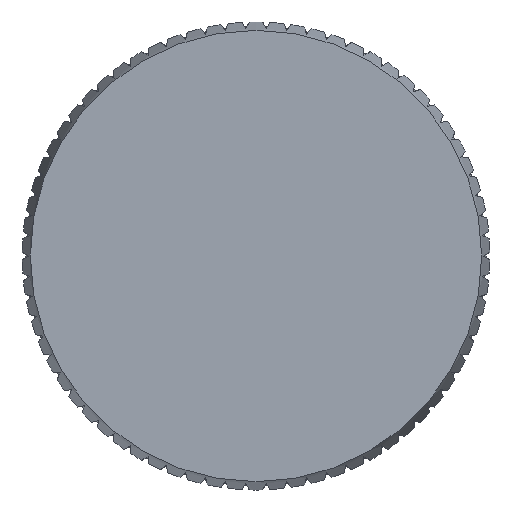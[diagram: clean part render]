
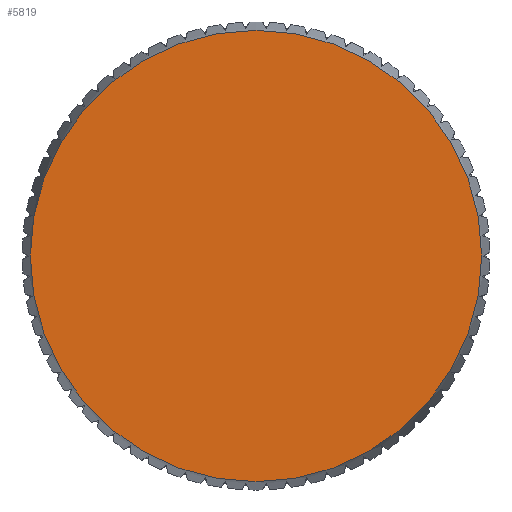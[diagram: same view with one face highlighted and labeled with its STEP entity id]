
A CAD part, front view. The second image highlights one B-rep face of the part: STEP entity #5819.
In plain terms, the highlighted planar face has unit normal (0, -1, 0).
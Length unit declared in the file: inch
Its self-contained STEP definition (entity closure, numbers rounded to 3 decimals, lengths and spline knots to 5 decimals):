
#463=CIRCLE('',#5854,0.21507);
#464=CIRCLE('',#5855,0.21507);
#1005=FACE_OUTER_BOUND('',#1317,.T.);
#1317=EDGE_LOOP('',(#5352,#5353));
#2090=VERTEX_POINT('',#8029);
#2091=VERTEX_POINT('',#8030);
#2700=EDGE_CURVE('',#2090,#2091,#463,.T.);
#2701=EDGE_CURVE('',#2091,#2090,#464,.T.);
#5352=ORIENTED_EDGE('',*,*,#2700,.T.);
#5353=ORIENTED_EDGE('',*,*,#2701,.T.);
#5515=PLANE('',#6383);
#5819=ADVANCED_FACE('',(#1005),#5515,.T.);
#5854=AXIS2_PLACEMENT_3D('',#8031,#6444,#6445);
#5855=AXIS2_PLACEMENT_3D('',#8032,#6446,#6447);
#6383=AXIS2_PLACEMENT_3D('',#11304,#7850,#7851);
#6444=DIRECTION('center_axis',(0.,-1.,0.));
#6445=DIRECTION('ref_axis',(1.,0.,0.));
#6446=DIRECTION('center_axis',(0.,-1.,0.));
#6447=DIRECTION('ref_axis',(1.,0.,0.));
#7850=DIRECTION('center_axis',(0.,-1.,0.));
#7851=DIRECTION('ref_axis',(0.,0.,-1.));
#8029=CARTESIAN_POINT('',(0.,0.,-0.21507));
#8030=CARTESIAN_POINT('',(0.,0.,0.21507));
#8031=CARTESIAN_POINT('Origin',(0.,0.,0.));
#8032=CARTESIAN_POINT('Origin',(0.,0.,0.));
#11304=CARTESIAN_POINT('Origin',(0.,0.,0.));
